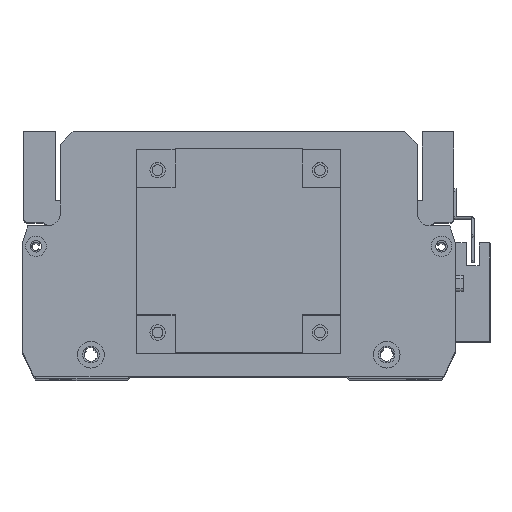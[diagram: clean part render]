
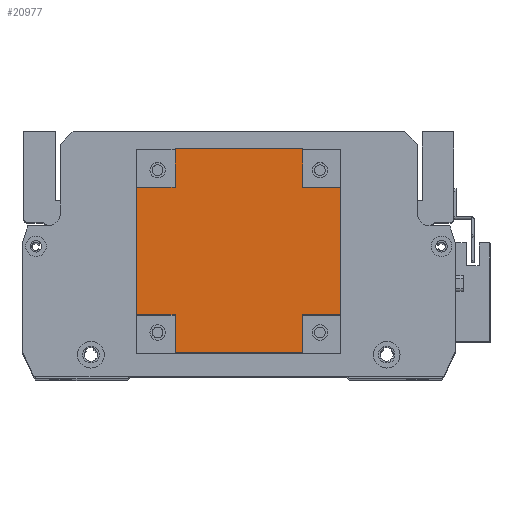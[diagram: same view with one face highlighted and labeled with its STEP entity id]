
A CAD part, top view. The second image highlights one B-rep face of the part: STEP entity #20977.
In plain terms, the highlighted planar face has unit normal (0, 0, 1).
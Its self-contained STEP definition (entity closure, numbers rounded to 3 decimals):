
#151 = VERTEX_POINT ( 'NONE', #3735 ) ;
#279 = DIRECTION ( 'NONE',  ( 1., 0., 0. ) ) ;
#647 = LINE ( 'NONE', #16494, #9724 ) ;
#1281 = ORIENTED_EDGE ( 'NONE', *, *, #12159, .F. ) ;
#1508 = CARTESIAN_POINT ( 'NONE',  ( 65., 65., 101.5 ) ) ;
#1677 = CARTESIAN_POINT ( 'NONE',  ( 65., 80., 101.5 ) ) ;
#2339 = VECTOR ( 'NONE', #12362, 1000. ) ;
#2920 = CARTESIAN_POINT ( 'NONE',  ( 65., 80., 101.5 ) ) ;
#3167 = VECTOR ( 'NONE', #19240, 1000. ) ;
#3481 = DIRECTION ( 'NONE',  ( 1., 0., 0. ) ) ;
#3735 = CARTESIAN_POINT ( 'NONE',  ( 15., 15., 101.5 ) ) ;
#3763 = VECTOR ( 'NONE', #24249, 1000. ) ;
#3887 = CARTESIAN_POINT ( 'NONE',  ( 65., 15., 101.5 ) ) ;
#4033 = VERTEX_POINT ( 'NONE', #21285 ) ;
#4201 = DIRECTION ( 'NONE',  ( 0., -1., 0. ) ) ;
#4213 = DIRECTION ( 'NONE',  ( 0., 0., -1. ) ) ;
#4292 = EDGE_CURVE ( 'NONE', #21069, #10506, #16616, .T. ) ;
#4563 = VERTEX_POINT ( 'NONE', #24891 ) ;
#4644 = VERTEX_POINT ( 'NONE', #3887 ) ;
#4657 = CARTESIAN_POINT ( 'NONE',  ( 15., 65., 101.5 ) ) ;
#5647 = EDGE_CURVE ( 'NONE', #21069, #4644, #8095, .T. ) ;
#5787 = CARTESIAN_POINT ( 'NONE',  ( 80., 15., 101.5 ) ) ;
#5834 = ORIENTED_EDGE ( 'NONE', *, *, #18992, .F. ) ;
#6076 = CARTESIAN_POINT ( 'NONE',  ( 0., 0., 101.5 ) ) ;
#6670 = LINE ( 'NONE', #13629, #11801 ) ;
#7048 = CARTESIAN_POINT ( 'NONE',  ( 65., 65., 101.5 ) ) ;
#7470 = LINE ( 'NONE', #18109, #2339 ) ;
#7601 = ORIENTED_EDGE ( 'NONE', *, *, #4292, .T. ) ;
#8053 = EDGE_CURVE ( 'NONE', #16275, #22609, #17938, .T. ) ;
#8095 = LINE ( 'NONE', #5787, #16537 ) ;
#8654 = CARTESIAN_POINT ( 'NONE',  ( 15., 80., 101.5 ) ) ;
#8783 = CARTESIAN_POINT ( 'NONE',  ( 15., 0., 101.5 ) ) ;
#9135 = LINE ( 'NONE', #1508, #18192 ) ;
#9328 = ORIENTED_EDGE ( 'NONE', *, *, #11794, .F. ) ;
#9409 = ORIENTED_EDGE ( 'NONE', *, *, #21409, .T. ) ;
#9724 = VECTOR ( 'NONE', #20410, 1000. ) ;
#9762 = EDGE_CURVE ( 'NONE', #4033, #17767, #22196, .T. ) ;
#9797 = EDGE_CURVE ( 'NONE', #4644, #10067, #15839, .T. ) ;
#9906 = CARTESIAN_POINT ( 'NONE',  ( 0., 65., 101.5 ) ) ;
#9917 = PLANE ( 'NONE',  #14772 ) ;
#10000 = CARTESIAN_POINT ( 'NONE',  ( 65., 0., 101.5 ) ) ;
#10067 = VERTEX_POINT ( 'NONE', #12768 ) ;
#10506 = VERTEX_POINT ( 'NONE', #20098 ) ;
#10956 = CARTESIAN_POINT ( 'NONE',  ( 0., 0., 101.5 ) ) ;
#11307 = VECTOR ( 'NONE', #18331, 1000. ) ;
#11312 = VECTOR ( 'NONE', #279, 1000. ) ;
#11713 = EDGE_CURVE ( 'NONE', #22098, #10067, #24552, .T. ) ;
#11794 = EDGE_CURVE ( 'NONE', #21143, #10506, #9135, .T. ) ;
#11801 = VECTOR ( 'NONE', #15630, 1000. ) ;
#11913 = VECTOR ( 'NONE', #4201, 1000. ) ;
#12159 = EDGE_CURVE ( 'NONE', #17767, #22609, #647, .T. ) ;
#12362 = DIRECTION ( 'NONE',  ( -1., 0., 0. ) ) ;
#12493 = CARTESIAN_POINT ( 'NONE',  ( 15., 0., 101.5 ) ) ;
#12704 = ORIENTED_EDGE ( 'NONE', *, *, #9762, .F. ) ;
#12768 = CARTESIAN_POINT ( 'NONE',  ( 65., 0., 101.5 ) ) ;
#12895 = DIRECTION ( 'NONE',  ( 1., 0., 0. ) ) ;
#13439 = DIRECTION ( 'NONE',  ( -1., 0., 0. ) ) ;
#13629 = CARTESIAN_POINT ( 'NONE',  ( 0., 0., 101.5 ) ) ;
#13983 = LINE ( 'NONE', #8783, #3763 ) ;
#14427 = ORIENTED_EDGE ( 'NONE', *, *, #9797, .F. ) ;
#14449 = ORIENTED_EDGE ( 'NONE', *, *, #18422, .F. ) ;
#14760 = EDGE_CURVE ( 'NONE', #151, #4563, #7470, .T. ) ;
#14772 = AXIS2_PLACEMENT_3D ( 'NONE', #6076, #4213, #17690 ) ;
#14855 = VECTOR ( 'NONE', #12895, 1000. ) ;
#15630 = DIRECTION ( 'NONE',  ( 0., -1., 0. ) ) ;
#15839 = LINE ( 'NONE', #10000, #11913 ) ;
#15934 = ORIENTED_EDGE ( 'NONE', *, *, #11713, .T. ) ;
#16253 = DIRECTION ( 'NONE',  ( 0., 1., 0. ) ) ;
#16275 = VERTEX_POINT ( 'NONE', #1677 ) ;
#16494 = CARTESIAN_POINT ( 'NONE',  ( 15., 80., 101.5 ) ) ;
#16537 = VECTOR ( 'NONE', #13439, 1000. ) ;
#16601 = FACE_OUTER_BOUND ( 'NONE', #16670, .T. ) ;
#16616 = LINE ( 'NONE', #20159, #20573 ) ;
#16670 = EDGE_LOOP ( 'NONE', ( #25028, #1281, #12704, #9409, #19864, #5834, #15934, #14427, #17703, #7601, #9328, #14449 ) ) ;
#17391 = CARTESIAN_POINT ( 'NONE',  ( 0., 80., 101.5 ) ) ;
#17659 = LINE ( 'NONE', #2920, #11307 ) ;
#17690 = DIRECTION ( 'NONE',  ( -1., 0., 0. ) ) ;
#17703 = ORIENTED_EDGE ( 'NONE', *, *, #5647, .F. ) ;
#17767 = VERTEX_POINT ( 'NONE', #4657 ) ;
#17938 = LINE ( 'NONE', #17391, #3167 ) ;
#18109 = CARTESIAN_POINT ( 'NONE',  ( 0., 15., 101.5 ) ) ;
#18192 = VECTOR ( 'NONE', #3481, 1000. ) ;
#18331 = DIRECTION ( 'NONE',  ( 0., -1., 0. ) ) ;
#18422 = EDGE_CURVE ( 'NONE', #16275, #21143, #17659, .T. ) ;
#18992 = EDGE_CURVE ( 'NONE', #22098, #151, #13983, .T. ) ;
#19240 = DIRECTION ( 'NONE',  ( -1., 0., 0. ) ) ;
#19864 = ORIENTED_EDGE ( 'NONE', *, *, #14760, .F. ) ;
#20098 = CARTESIAN_POINT ( 'NONE',  ( 80., 65., 101.5 ) ) ;
#20159 = CARTESIAN_POINT ( 'NONE',  ( 80., 0., 101.5 ) ) ;
#20410 = DIRECTION ( 'NONE',  ( 0., 1., 0. ) ) ;
#20573 = VECTOR ( 'NONE', #16253, 1000. ) ;
#20977 = ADVANCED_FACE ( 'NONE', ( #16601 ), #9917, .F. ) ;
#21069 = VERTEX_POINT ( 'NONE', #21911 ) ;
#21143 = VERTEX_POINT ( 'NONE', #7048 ) ;
#21285 = CARTESIAN_POINT ( 'NONE',  ( 0., 65., 101.5 ) ) ;
#21409 = EDGE_CURVE ( 'NONE', #4033, #4563, #6670, .T. ) ;
#21911 = CARTESIAN_POINT ( 'NONE',  ( 80., 15., 101.5 ) ) ;
#22098 = VERTEX_POINT ( 'NONE', #12493 ) ;
#22196 = LINE ( 'NONE', #9906, #11312 ) ;
#22609 = VERTEX_POINT ( 'NONE', #8654 ) ;
#24249 = DIRECTION ( 'NONE',  ( 0., 1., 0. ) ) ;
#24552 = LINE ( 'NONE', #10956, #14855 ) ;
#24891 = CARTESIAN_POINT ( 'NONE',  ( 0., 15., 101.5 ) ) ;
#25028 = ORIENTED_EDGE ( 'NONE', *, *, #8053, .T. ) ;
